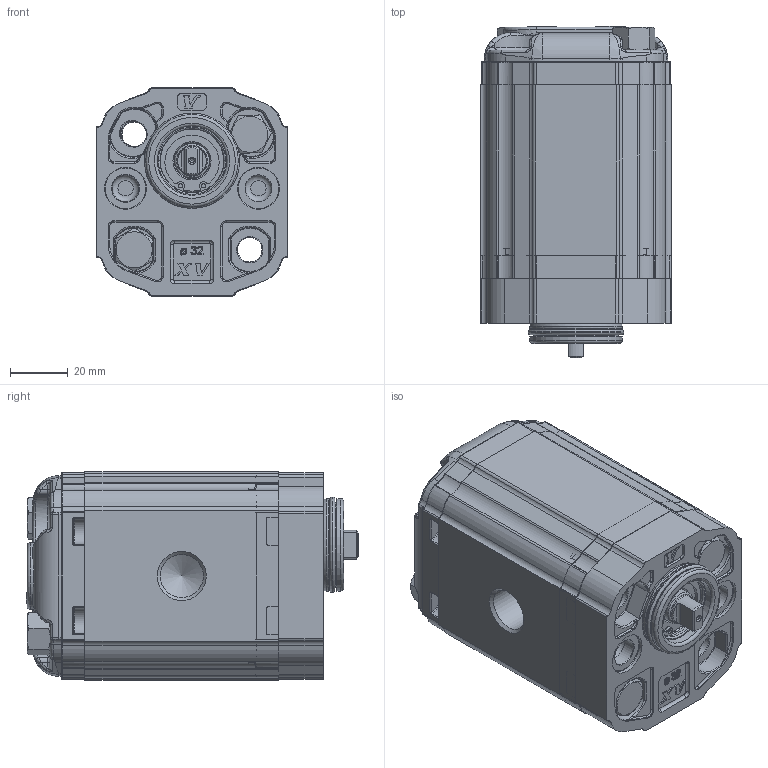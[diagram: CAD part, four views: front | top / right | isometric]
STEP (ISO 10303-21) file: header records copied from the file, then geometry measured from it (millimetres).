
FILE_DESCRIPTION( ( 'Unknown' ), '1' );
FILE_NAME( 'P:/montaggio_easy/output/STP/X1M3431DBBF.stp', 'Unknown', ( 'Unknown' ), ( 'Unknown' ), 'PSStep 14.0', 'Unknown', ' ' );
FILE_SCHEMA( ( 'AUTOMOTIVE_DESIGN { 1 0 10303 214 1 1 1 1 }' ) );
Length unit declared in the file: millimetre
Products named in the file (5): Assem1; X1M31; 1D; X1BBH67; XM140-F
Bounding box: 66 x 114.9 x 72 mm (x, y, z)
Surface area: 142856.5 mm2
Topology: 8 solids, 14 shells, 3682 faces, 9290 edges, 5886 vertices
Faces by surface type: plane 1650, cylinder 994, torus 382, extrusion 296, bspline 252, cone 100, sphere 8
Full cylindrical faces by diameter (mm): 1.447 x4, 1.5 x2, 2.5 x2, 3 x12, 8 x8, 8.5 x6, 9 x4, 9.3 x4, 10 x2, 10.5 x4, 11.965 x2, 12 x2, 12.4 x2, 14.5 x4, 14.95 x4, 15.115 x2, 17.147 x2, 19 x2, 20 x2, 21.8 x2, 22 x4, 22.2 x2, 23 x2, 24 x2, 29.4 x4, 32 x4, 32.96 x2
Entity records: 77306 total; most frequent: CARTESIAN_POINT 19467, ORIENTED_EDGE 8940, DIRECTION 8686, EDGE_CURVE 4470, AXIS2_PLACEMENT_3D 3028, VERTEX_POINT 2893, VECTOR 2630, LINE 2482
